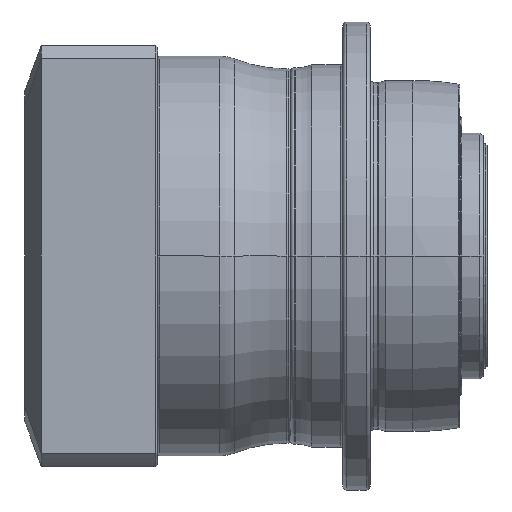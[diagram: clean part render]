
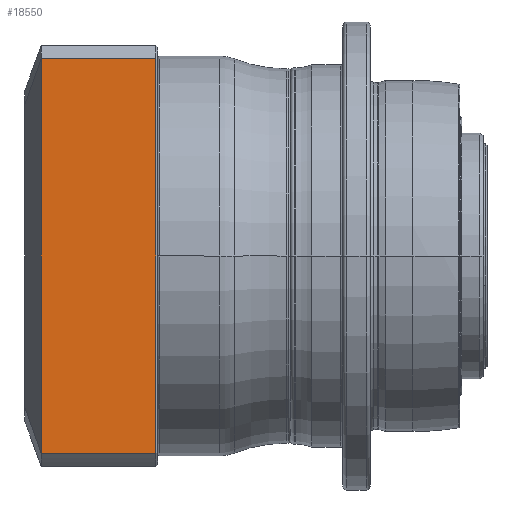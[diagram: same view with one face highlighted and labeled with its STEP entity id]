
A CAD part, front view. The second image highlights one B-rep face of the part: STEP entity #18550.
In plain terms, the highlighted planar face has unit normal (0, -1, 0) as drawn and (0, 1, 0) by its records, which use the part's own axes.
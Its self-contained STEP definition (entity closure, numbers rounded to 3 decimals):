
#17298=CARTESIAN_POINT('',(-50.596,54.,31.8));
#17300=DIRECTION('',(1.,0.,0.));
#17301=VECTOR('',#17300,101.193);
#17302=CARTESIAN_POINT('',(-50.596,54.,
2.5));
#17303=LINE('',#17302,#17301);
#17304=DIRECTION('',(0.,0.,1.));
#17305=VECTOR('',#17304,29.3);
#17306=CARTESIAN_POINT('',(50.596,54.,2.5));
#17307=LINE('',#17306,#17305);
#17308=DIRECTION('',(-1.,0.,0.));
#17309=VECTOR('',#17308,101.193);
#17310=CARTESIAN_POINT('',(50.596,54.,31.8));
#17311=LINE('',#17310,#17309);
#17312=DIRECTION('',(0.,0.,-1.));
#17313=VECTOR('',#17312,29.3);
#17314=CARTESIAN_POINT('',(-50.596,54.,31.8));
#17315=LINE('',#17314,#17313);
#18019=CARTESIAN_POINT('',(50.596,54.,31.8));
#18021=VERTEX_POINT('',#18019);
#18023=VERTEX_POINT('',#17298);
#18114=CARTESIAN_POINT('',(-50.596,54.,
2.5));
#18115=CARTESIAN_POINT('',(50.596,54.,2.5));
#18116=VERTEX_POINT('',#18114);
#18117=VERTEX_POINT('',#18115);
#18536=CARTESIAN_POINT('',(54.,54.,0.));
#18537=DIRECTION('',(0.,1.,0.));
#18538=DIRECTION('',(-1.,0.,0.));
#18539=AXIS2_PLACEMENT_3D('',#18536,#18537,#18538);
#18540=PLANE('',#18539);
#18542=ORIENTED_EDGE('',*,*,#18541,.T.);
#18544=ORIENTED_EDGE('',*,*,#18543,.T.);
#18545=ORIENTED_EDGE('',*,*,#18531,.T.);
#18547=ORIENTED_EDGE('',*,*,#18546,.T.);
#18548=EDGE_LOOP('',(#18542,#18544,#18545,#18547));
#18549=FACE_OUTER_BOUND('',#18548,.F.);
#18550=ADVANCED_FACE('',(#18549),#18540,.T.);
#18531=EDGE_CURVE('',#18021,#18023,#17311,.T.);
#18541=EDGE_CURVE('',#18116,#18117,#17303,.T.);
#18543=EDGE_CURVE('',#18117,#18021,#17307,.T.);
#18546=EDGE_CURVE('',#18023,#18116,#17315,.T.);
